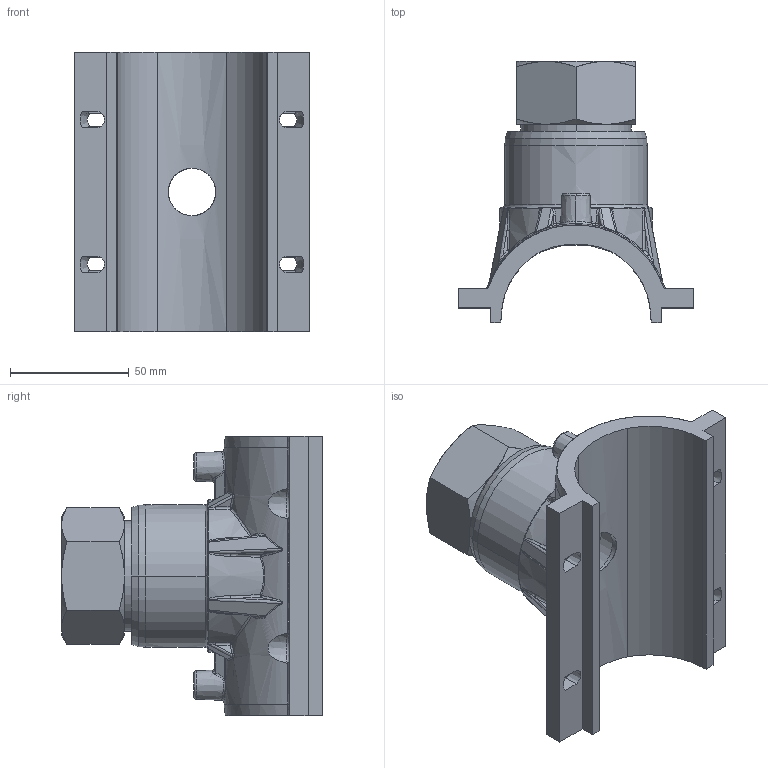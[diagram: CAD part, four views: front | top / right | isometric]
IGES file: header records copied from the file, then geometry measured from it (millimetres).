
Start section:  PTC IGES file: vam-rg_d063_1_1_4_01.igs
Global section: file name: vam-rg_d063_1_1_4_01.igs; native system: Pro/ENGINEER by Parametric Technology Corporation; preprocessor: 2011490; author: mtunjic; organization: Unknown; date: 20130909.110430; units: millimetre
Bounding box: 99 x 110 x 118 mm (x, y, z)
Surface area: 62815.9 mm2 (no closed solid volume)
Topology: 0 solids, 0 shells, 512 faces, 2486 edges, 2486 vertices
Faces by surface type: bspline 512
